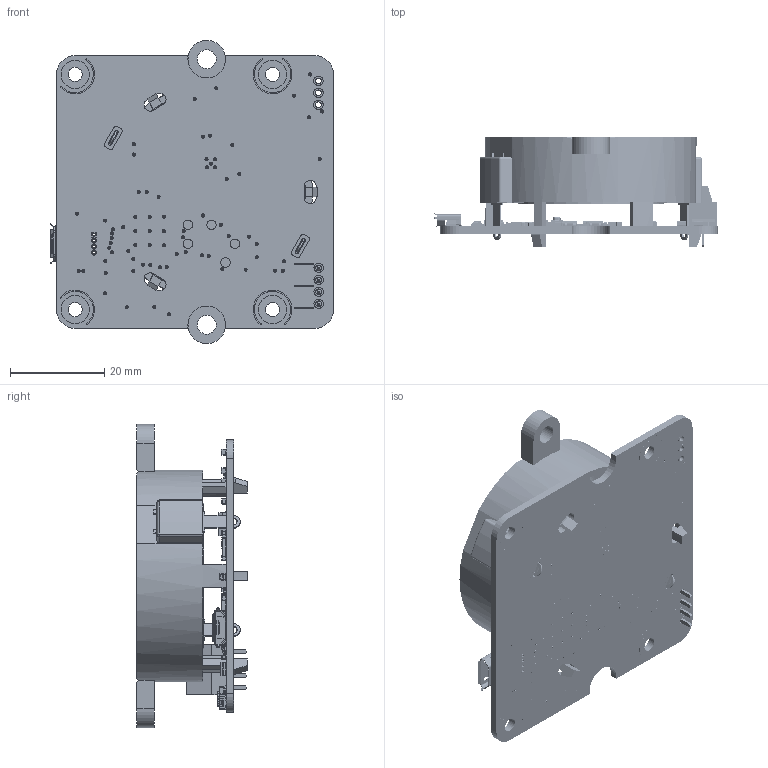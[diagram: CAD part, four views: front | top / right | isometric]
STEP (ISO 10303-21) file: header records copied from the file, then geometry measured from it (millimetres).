
FILE_DESCRIPTION (( 'STEP AP214' ), '1' );
FILE_NAME ('yocto-maxibuzzer2.STEP', '2020-05-08T08:55:05', ( 'martinm' ), ( '' ), 'SwSTEP 2.0', 'SolidWorks 2008', '' );
FILE_SCHEMA (( 'AUTOMOTIVE_DESIGN' ));
Length unit declared in the file: millimetre
Products named in the file (40): yocto-maxibuzzer2OutLine; TPA6130A2RTJR_Défaut; C0603C106M9PACTU; C0805C104K5RACTU; GRM188R71E104KA01D; 06031C103JAT2A; GRM188R61C225KE15D; C2012X7R2E472KT5; GRM188R60J105KA01D; LMK107B7105KA-T; C1608X5R1E474K080AC; C0805C105K4RACTU; PIC24FJ256DA206-I_MR; 691_210_910_004; TEST_POINT; CRCW060310K0JNEB; PE0603FRF470R1L; RC0603FR-071K5L; CRCW0603100KJNEA; RK73H1JTTD4R70F; RC0603FR-074K7L; CRCW06031K00JNEB; CRCW0603100RJNEB; RK73H1JTTD1800F; RK73H1JTTD4702F; AC0603FR-074K7L; RK73H1JTTD1242F; CRCW06031M00JNEB; CRCW12060000Z0EA; VC080505C150DP; MCP1703T-3302E_CB; WS2812B; PT-4532PLQ; 2N7002,215; DMP3098L-7; ZX62-B-5PA(11); KMR211NGLFS; ASMT-TBBM-NP902; FAN4010IL6X_F113; yocto-maxibuzzer2
Assembly tree (59 placements, depth 2):
  TEST_POINT
  yocto-maxibuzzer2
    GRM188R71E104KA01D  x7
    C1608X5R1E474K080AC  x2
    CRCW060310K0JNEB
    RC0603FR-074K7L
    06031C103JAT2A  x3
    GRM188R60J105KA01D
    RC0603FR-071K5L
    WS2812B
    KMR211NGLFS  x3
    C0603C106M9PACTU
    C0805C105K4RACTU  x4
    PIC24FJ256DA206-I_MR
    AC0603FR-074K7L  x2
    VC080505C150DP  x4
    TPA6130A2RTJR_Défaut
    MCP1703T-3302E_CB
    GRM188R61C225KE15D
    CRCW0603100KJNEA
    CRCW06031K00JNEB
    RK73H1JTTD4R70F
    2N7002,215
    DMP3098L-7  x2
    CRCW0603100RJNEB
    RK73H1JTTD4702F
    ZX62-B-5PA(11)
    yocto-maxibuzzer2OutLine
    RK73H1JTTD1800F  x2
    PE0603FRF470R1L
    RK73H1JTTD1242F  x2
    CRCW12060000Z0EA
    C2012X7R2E472KT5
    691_210_910_004
    FAN4010IL6X_F113
    C0805C104K5RACTU
    CRCW06031M00JNEB
    LMK107B7105KA-T
    PT-4532PLQ
    ASMT-TBBM-NP902
Bounding box: 60.33 x 23.5 x 64.5 mm (x, y, z)
Volume: 12350.1 mm3; surface area: 20898.1 mm2
Topology: 82 solids, 82 shells, 7864 faces, 20159 edges, 12949 vertices
Faces by surface type: plane 4818, cylinder 2146, bspline 651, sphere 212, torus 31, cone 6
Entity records: 292584 total; most frequent: CARTESIAN_POINT 70046, ORIENTED_EDGE 33698, DIRECTION 31286, EDGE_CURVE 16849, VECTOR 12036, LINE 12036, VERTEX_POINT 11070, AXIS2_PLACEMENT_3D 9625
